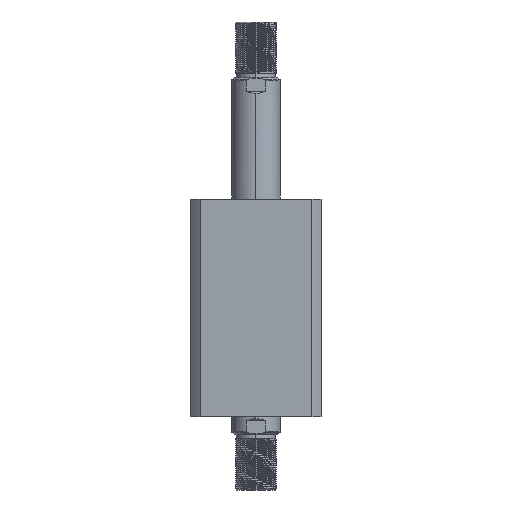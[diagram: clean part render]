
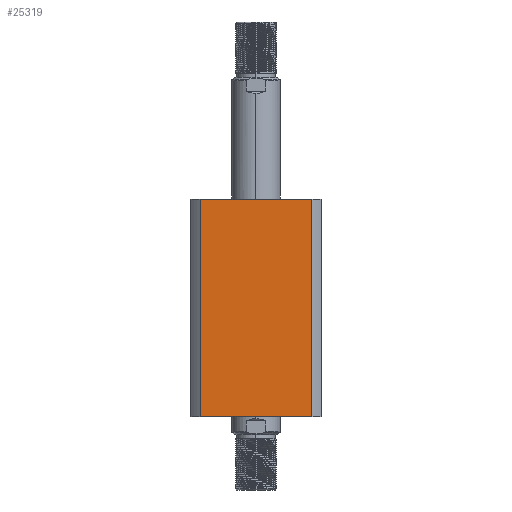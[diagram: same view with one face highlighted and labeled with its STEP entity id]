
A CAD part, left-side view. The second image highlights one B-rep face of the part: STEP entity #25319.
In plain terms, the highlighted planar face has unit normal (-1, 0, 0).
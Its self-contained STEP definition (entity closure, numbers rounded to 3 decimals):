
#143 = CARTESIAN_POINT ( 'NONE',  ( -47., 40.435, 300. ) ) ;
#517 = VECTOR ( 'NONE', #12966, 1000. ) ;
#1575 = ORIENTED_EDGE ( 'NONE', *, *, #9116, .F. ) ;
#1806 = LINE ( 'NONE', #22917, #2495 ) ;
#2495 = VECTOR ( 'NONE', #8011, 1000. ) ;
#2826 = VECTOR ( 'NONE', #12127, 1000. ) ;
#2929 = VERTEX_POINT ( 'NONE', #17631 ) ;
#3142 = VECTOR ( 'NONE', #6743, 1000. ) ;
#4241 = CARTESIAN_POINT ( 'NONE',  ( -47., -40.435, 157. ) ) ;
#4597 = CARTESIAN_POINT ( 'NONE',  ( -47., 47., 0. ) ) ;
#6743 = DIRECTION ( 'NONE',  ( 0., -1., 0. ) ) ;
#6805 = PLANE ( 'NONE',  #8330 ) ;
#8011 = DIRECTION ( 'NONE',  ( 0., 0., -1. ) ) ;
#8330 = AXIS2_PLACEMENT_3D ( 'NONE', #21721, #11110, #26006 ) ;
#9116 = EDGE_CURVE ( 'NONE', #12114, #9311, #24844, .T. ) ;
#9311 = VERTEX_POINT ( 'NONE', #4241 ) ;
#11110 = DIRECTION ( 'NONE',  ( 1., 0., 0. ) ) ;
#11215 = LINE ( 'NONE', #143, #517 ) ;
#12114 = VERTEX_POINT ( 'NONE', #21440 ) ;
#12127 = DIRECTION ( 'NONE',  ( 0., -1., 0. ) ) ;
#12966 = DIRECTION ( 'NONE',  ( 0., 0., 1. ) ) ;
#15655 = VERTEX_POINT ( 'NONE', #16782 ) ;
#16498 = ORIENTED_EDGE ( 'NONE', *, *, #23295, .F. ) ;
#16610 = EDGE_CURVE ( 'NONE', #2929, #12114, #11215, .T. ) ;
#16782 = CARTESIAN_POINT ( 'NONE',  ( -47., -40.435, 0. ) ) ;
#17631 = CARTESIAN_POINT ( 'NONE',  ( -47., 40.435, 0. ) ) ;
#17704 = EDGE_CURVE ( 'NONE', #2929, #15655, #25835, .T. ) ;
#21440 = CARTESIAN_POINT ( 'NONE',  ( -47., 40.435, 157. ) ) ;
#21721 = CARTESIAN_POINT ( 'NONE',  ( -47., 47., 157. ) ) ;
#22917 = CARTESIAN_POINT ( 'NONE',  ( -47., -40.435, 300. ) ) ;
#23295 = EDGE_CURVE ( 'NONE', #9311, #15655, #1806, .T. ) ;
#23480 = EDGE_LOOP ( 'NONE', ( #16498, #1575, #24845, #25891 ) ) ;
#24844 = LINE ( 'NONE', #27001, #2826 ) ;
#24845 = ORIENTED_EDGE ( 'NONE', *, *, #16610, .F. ) ;
#25319 = ADVANCED_FACE ( 'NONE', ( #26062 ), #6805, .F. ) ;
#25835 = LINE ( 'NONE', #4597, #3142 ) ;
#25891 = ORIENTED_EDGE ( 'NONE', *, *, #17704, .T. ) ;
#26006 = DIRECTION ( 'NONE',  ( 0., 1., 0. ) ) ;
#26062 = FACE_OUTER_BOUND ( 'NONE', #23480, .T. ) ;
#27001 = CARTESIAN_POINT ( 'NONE',  ( -47., 47., 157. ) ) ;
